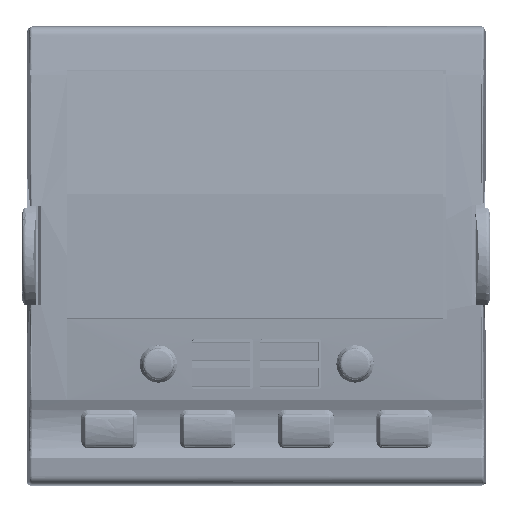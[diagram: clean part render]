
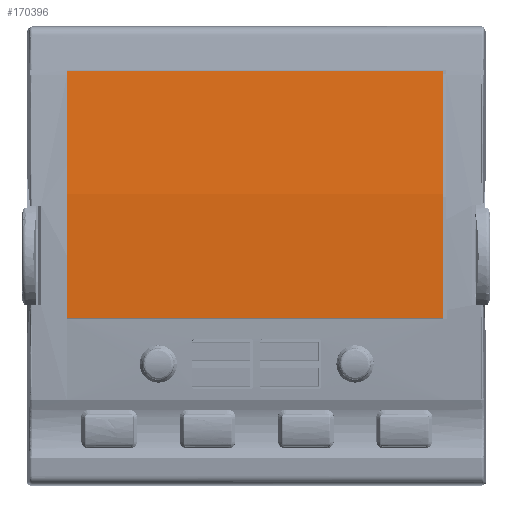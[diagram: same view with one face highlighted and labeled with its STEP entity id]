
A CAD part, top view. The second image highlights one B-rep face of the part: STEP entity #170396.
In plain terms, the highlighted cylindrical face has radius 140 mm (diameter 279.999 mm), a partial arc.
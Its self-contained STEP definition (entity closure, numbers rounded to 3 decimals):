
#159391=CARTESIAN_POINT('',(4.771,43.616,
-0.371));
#159392=CARTESIAN_POINT('',(4.781,35.036,
0.686));
#159393=CARTESIAN_POINT('',(4.784,26.433,
0.946));
#159394=CARTESIAN_POINT('',(4.779,17.805,
0.41));
#159417=CARTESIAN_POINT('',(44.193,17.805,
0.376));
#159418=CARTESIAN_POINT('',(44.189,26.433,
0.912));
#159419=CARTESIAN_POINT('',(44.191,35.036,
0.652));
#159420=CARTESIAN_POINT('',(44.199,43.616,
-0.405));
#159446=DIRECTION('',(-1.,0.,0.001));
#159447=VECTOR('',#159446,39.414);
#159448=CARTESIAN_POINT('',(44.193,17.805,
0.376));
#159449=LINE('',#159448,#159447);
#159450=DIRECTION('',(1.,0.,-0.001));
#159451=VECTOR('',#159450,39.428);
#159452=CARTESIAN_POINT('',(4.771,43.616,
-0.371));
#159453=LINE('',#159452,#159451);
#162067=CARTESIAN_POINT('',(4.779,17.805,
0.41));
#162068=VERTEX_POINT('',#162067);
#162069=CARTESIAN_POINT('',(44.193,17.805,
0.376));
#162070=VERTEX_POINT('',#162069);
#162073=CARTESIAN_POINT('',(4.771,43.616,
-0.371));
#162074=VERTEX_POINT('',#162073);
#162075=CARTESIAN_POINT('',(44.199,43.616,
-0.405));
#162076=VERTEX_POINT('',#162075);
#170385=CARTESIAN_POINT('',(3.861,26.496,
-139.319));
#170386=DIRECTION('',(1.,0.,-0.001));
#170387=DIRECTION('',(0.001,0.122,0.992));
#170388=AXIS2_PLACEMENT_3D('',#170385,#170386,#170387);
#170389=CYLINDRICAL_SURFACE('',#170388,140.);
#170390=ORIENTED_EDGE('',*,*,#170366,.F.);
#170391=ORIENTED_EDGE('',*,*,#170231,.T.);
#170392=ORIENTED_EDGE('',*,*,#170338,.F.);
#170393=ORIENTED_EDGE('',*,*,#170351,.T.);
#170394=EDGE_LOOP('',(#170390,#170391,#170392,#170393));
#170395=FACE_OUTER_BOUND('',#170394,.F.);
#159395=B_SPLINE_CURVE_WITH_KNOTS('',3,(#159391,#159392,#159393,#159394),
.UNSPECIFIED.,.F.,.F.,(4,4),(0.,1.),.UNSPECIFIED.);
#159421=B_SPLINE_CURVE_WITH_KNOTS('',3,(#159417,#159418,#159419,#159420),
.UNSPECIFIED.,.F.,.F.,(4,4),(0.,1.),.UNSPECIFIED.);
#170231=EDGE_CURVE('',#162070,#162068,#159449,.T.);
#170338=EDGE_CURVE('',#162074,#162068,#159395,.T.);
#170351=EDGE_CURVE('',#162074,#162076,#159453,.T.);
#170366=EDGE_CURVE('',#162070,#162076,#159421,.T.);
#170396=ADVANCED_FACE('',(#170395),#170389,.T.);
